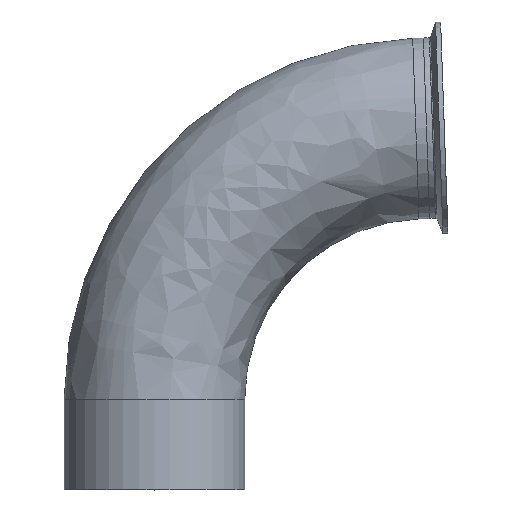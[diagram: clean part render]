
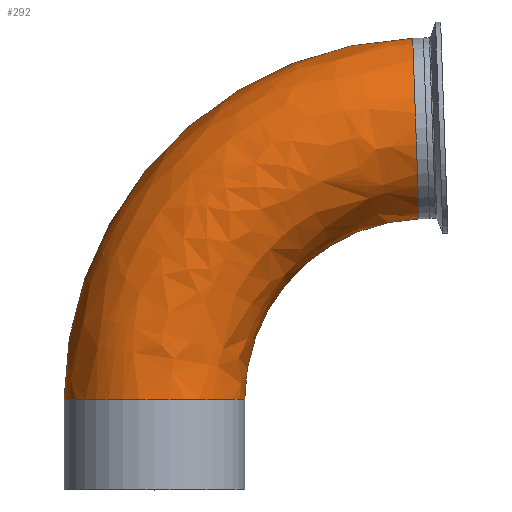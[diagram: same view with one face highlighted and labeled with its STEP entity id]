
A CAD part, top view. The second image highlights one B-rep face of the part: STEP entity #292.
In plain terms, the highlighted free-form (B-spline) face has degree [3, 3] with [4, 4] control points.
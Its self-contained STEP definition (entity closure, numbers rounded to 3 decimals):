
#30 = VERTEX_POINT ( 'NONE', #801 ) ;
#44 = CIRCLE ( 'NONE', #433, 203.2 ) ;
#54 = CARTESIAN_POINT ( 'NONE',  ( 145.308, 253.921, 0. ) ) ;
#67 = CARTESIAN_POINT ( 'NONE',  ( 29.616, 249.881, 0. ) ) ;
#84 = CARTESIAN_POINT ( 'NONE',  ( 50.8, 108.726, 101.6 ) ) ;
#167 = DIRECTION ( 'NONE',  ( -0.999, -0.035, 0. ) ) ;
#169 = CARTESIAN_POINT ( 'NONE',  ( -50.8, 50.845, 101.6 ) ) ;
#173 = EDGE_CURVE ( 'NONE', #1466, #1312, #1758, .T. ) ;
#193 = AXIS2_PLACEMENT_3D ( 'NONE', #1422, #1381, #1364 ) ;
#198 = CARTESIAN_POINT ( 'NONE',  ( 148.854, 152.383, 101.6 ) ) ;
#205 = CARTESIAN_POINT ( 'NONE',  ( 91.008, 150.363, 101.6 ) ) ;
#292 = ADVANCED_FACE ( 'NONE', ( #1501 ), #1717, .T. ) ;
#358 = CARTESIAN_POINT ( 'NONE',  ( 91.008, 150.363, 0. ) ) ;
#363 = CARTESIAN_POINT ( 'NONE',  ( 50.8, 108.726, 0. ) ) ;
#433 = AXIS2_PLACEMENT_3D ( 'NONE', #711, #1900, #503 ) ;
#434 = ORIENTED_EDGE ( 'NONE', *, *, #1145, .T. ) ;
#503 = DIRECTION ( 'NONE',  ( -1., 0., 0. ) ) ;
#508 = EDGE_CURVE ( 'NONE', #30, #1312, #44, .T. ) ;
#516 = CARTESIAN_POINT ( 'NONE',  ( 147.081, 203.152, 0. ) ) ;
#519 = EDGE_LOOP ( 'NONE', ( #1107, #434, #1584, #660 ) ) ;
#660 = ORIENTED_EDGE ( 'NONE', *, *, #508, .F. ) ;
#661 = CARTESIAN_POINT ( 'NONE',  ( 29.616, 249.881, 101.6 ) ) ;
#705 = VERTEX_POINT ( 'NONE', #1610 ) ;
#711 = CARTESIAN_POINT ( 'NONE',  ( 152.4, 50.845, 0. ) ) ;
#801 = CARTESIAN_POINT ( 'NONE',  ( -50.8, 50.845, 0. ) ) ;
#873 = CARTESIAN_POINT ( 'NONE',  ( 148.854, 152.383, 0. ) ) ;
#901 = CARTESIAN_POINT ( 'NONE',  ( 152.4, 50.845, 0. ) ) ;
#948 = DIRECTION ( 'NONE',  ( 0., 0., -1. ) ) ;
#953 = DIRECTION ( 'NONE',  ( -1., 0., 0. ) ) ;
#965 = CARTESIAN_POINT ( 'NONE',  ( 50.8, 50.845, 0. ) ) ;
#1015 = CIRCLE ( 'NONE', #1668, 101.6 ) ;
#1107 = ORIENTED_EDGE ( 'NONE', *, *, #1648, .T. ) ;
#1145 = EDGE_CURVE ( 'NONE', #705, #1466, #1015, .T. ) ;
#1218 = CARTESIAN_POINT ( 'NONE',  ( -50.8, 166.608, 0. ) ) ;
#1277 = AXIS2_PLACEMENT_3D ( 'NONE', #516, #167, #1418 ) ;
#1312 = VERTEX_POINT ( 'NONE', #1631 ) ;
#1323 = CIRCLE ( 'NONE', #193, 50.8 ) ;
#1364 = DIRECTION ( 'NONE',  ( -1., 0., 0. ) ) ;
#1381 = DIRECTION ( 'NONE',  ( 0., 1., 0. ) ) ;
#1418 = DIRECTION ( 'NONE',  ( -0.035, 0.999, 0. ) ) ;
#1422 = CARTESIAN_POINT ( 'NONE',  ( 0., 50.845, 0. ) ) ;
#1466 = VERTEX_POINT ( 'NONE', #873 ) ;
#1485 = CARTESIAN_POINT ( 'NONE',  ( -50.8, 50.845, 0. ) ) ;
#1501 = FACE_OUTER_BOUND ( 'NONE', #519, .T. ) ;
#1524 = CARTESIAN_POINT ( 'NONE',  ( -50.8, 166.608, 101.6 ) ) ;
#1584 = ORIENTED_EDGE ( 'NONE', *, *, #173, .T. ) ;
#1591 = CARTESIAN_POINT ( 'NONE',  ( 148.854, 152.383, 0. ) ) ;
#1610 = CARTESIAN_POINT ( 'NONE',  ( 50.8, 50.845, 0. ) ) ;
#1631 = CARTESIAN_POINT ( 'NONE',  ( 145.308, 253.921, 0. ) ) ;
#1648 = EDGE_CURVE ( 'NONE', #30, #705, #1323, .T. ) ;
#1668 = AXIS2_PLACEMENT_3D ( 'NONE', #901, #948, #953 ) ;
#1698 = CARTESIAN_POINT ( 'NONE',  ( 145.308, 253.921, 101.6 ) ) ;
#1717 =( BOUNDED_SURFACE ( )  B_SPLINE_SURFACE ( 3, 3, ( 
 ( #1485, #1218, #67, #54 ),
 ( #169, #1524, #661, #1698 ),
 ( #1741, #84, #205, #198 ),
 ( #965, #363, #358, #1591 ) ),
 .UNSPECIFIED., .F., .F., .F. ) 
 B_SPLINE_SURFACE_WITH_KNOTS ( ( 4, 4 ),
 ( 4, 4 ),
 ( 0., 1. ),
 ( 0., 1. ),
 .UNSPECIFIED. ) 
 GEOMETRIC_REPRESENTATION_ITEM ( )  RATIONAL_B_SPLINE_SURFACE ( (
 ( 1., 0.813, 0.813, 1.),
 ( 0.333, 0.271, 0.271, 0.333),
 ( 0.333, 0.271, 0.271, 0.333),
 ( 1., 0.813, 0.813, 1.) ) ) 
 REPRESENTATION_ITEM ( '' )  SURFACE ( )  );
#1741 = CARTESIAN_POINT ( 'NONE',  ( 50.8, 50.845, 101.6 ) ) ;
#1758 = CIRCLE ( 'NONE', #1277, 50.8 ) ;
#1900 = DIRECTION ( 'NONE',  ( 0., 0., -1. ) ) ;
